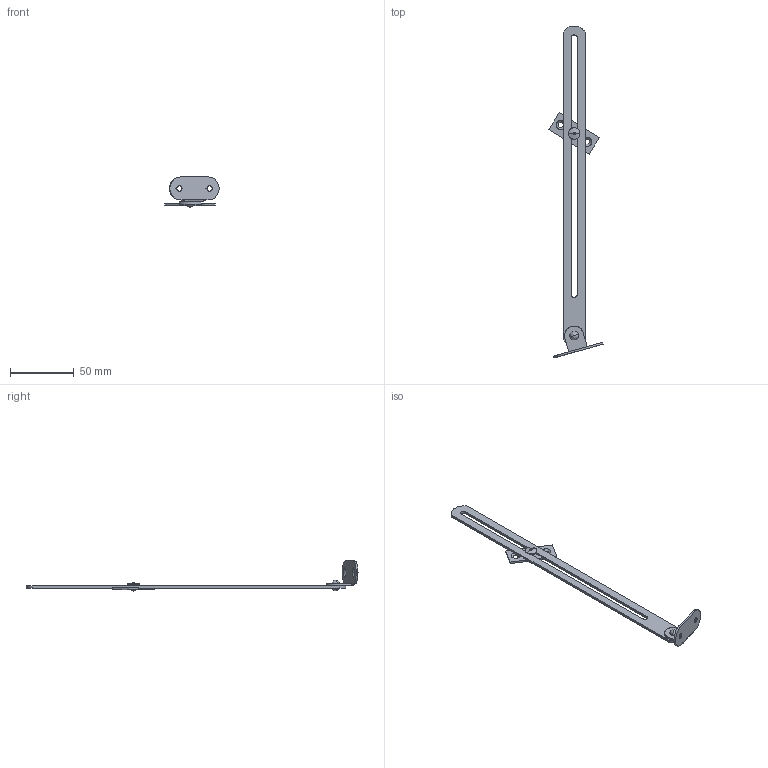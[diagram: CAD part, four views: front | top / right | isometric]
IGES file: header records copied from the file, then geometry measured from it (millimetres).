
Start section: SolidWorks IGES file using analytic representation for surfaces
Global section: file name: C:\Users\cbrechard\Desktop\BC 872.IGS; native system: SolidWorks 2017; preprocessor: SolidWorks 2017; author: cbrechard; date: 191029.144901; units: millimetre
Bounding box: 42.39 x 259.48 x 23.5 mm (x, y, z)
Surface area: 11959.5 mm2 (no closed solid volume)
Topology: 0 solids, 0 shells, 74 faces, 1342 edges, 1342 vertices
Faces by surface type: bspline 38, revolution 36
